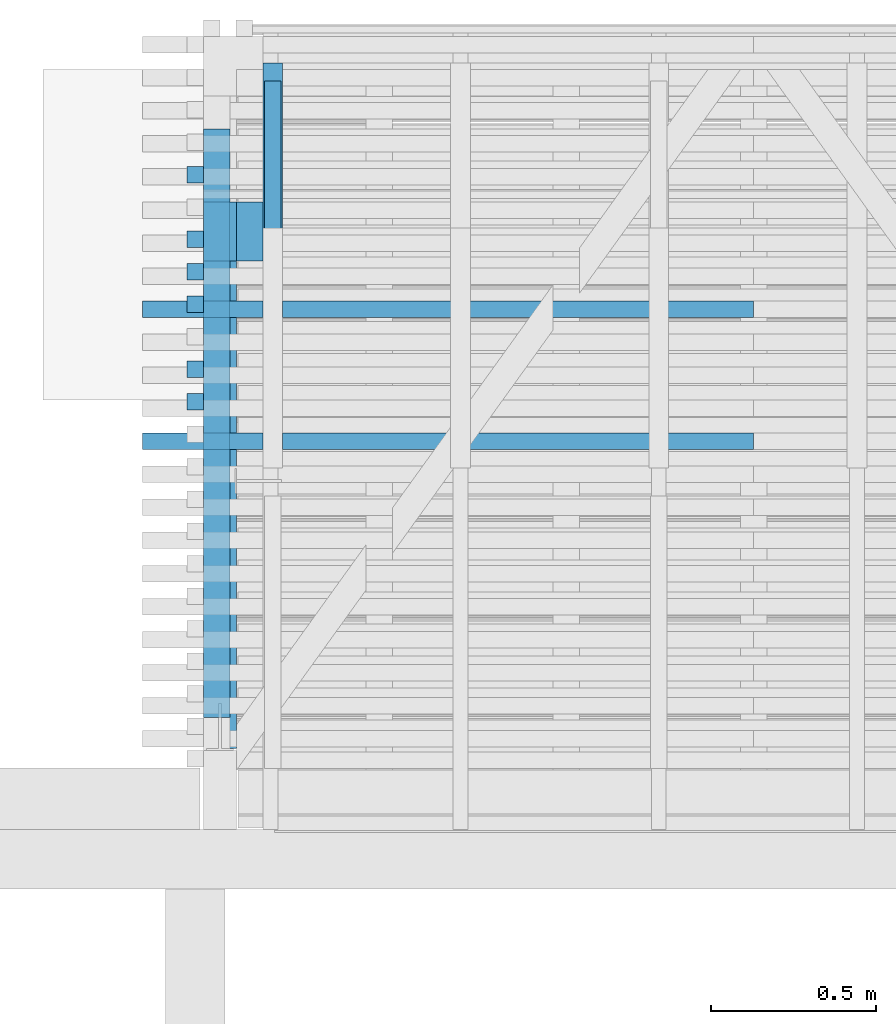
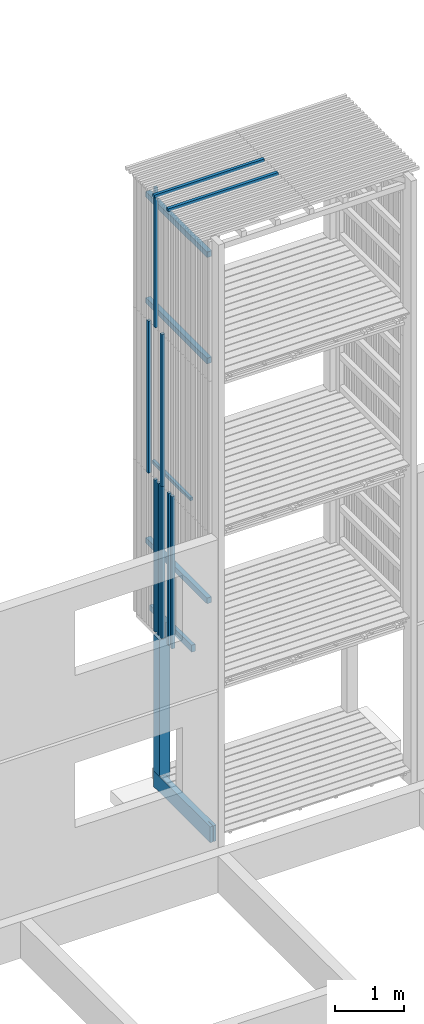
# One storey, part 41 of 182: 17 beams.
"""IFC2X3 building model written with IfcOpenShell, lengths in metres."""

from ifc_helpers import new_model, si_unit, frame, origin, place, context, project, spatial, faceted_brep, element, save


model = new_model("IFC2X3")

# Units and contexts
model_context = context("Model", 3, precision=1e-06, world=origin())
ifc_project = project(units=[si_unit("LENGTHUNIT", "METRE"), si_unit("PLANEANGLEUNIT", "RADIAN")], contexts=[model_context])

# Site, building, storey
site = spatial("IfcSite", under=ifc_project, CompositionType="ELEMENT")
building = spatial("IfcBuilding", under=site, CompositionType="ELEMENT")
storey = spatial("IfcBuildingStorey", under=building, Name="vs", CompositionType="ELEMENT", Elevation=-0.85)

# Beams
placement = place(None, origin())
beam_1_placement = place(placement, frame((13.299197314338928, 11.863259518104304, 2.575000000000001), z_axis=(1.0, 0.0, 0.0), x_axis=(0.0, 0.0, 1.0)))
element("IfcBeam", 1, at=beam_1_placement, inside=storey, Name="Bardage", context=model_context, shape_type="Brep", body=[
    faceted_brep([(2.699961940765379, -0.024999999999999, 0.025000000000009), (2.699961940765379, -0.024999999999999, -0.025000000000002), (2.699961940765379, 0.024999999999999, -0.025000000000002), (2.699961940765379, 0.024999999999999, 0.025000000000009), (0.0, -0.024999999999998, 0.025000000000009), (2.699961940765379, -0.024999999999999, 0.025000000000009), (2.699961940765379, 0.024999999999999, 0.025000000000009), (0.0, 0.025000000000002, 0.025000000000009), (0.0, -0.024999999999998, 0.025000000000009), (0.0, 0.025000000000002, 0.025000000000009), (0.0, 0.025000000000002, -0.025000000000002), (0.0, -0.024999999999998, -0.025000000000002), (0.0, -0.024999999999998, 0.025000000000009), (0.0, -0.024999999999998, -0.025000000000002), (2.699961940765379, -0.024999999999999, -0.025000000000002), (2.699961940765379, -0.024999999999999, 0.025000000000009), (0.0, -0.024999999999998, -0.025000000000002), (0.0, 0.025000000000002, -0.025000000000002), (2.699961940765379, 0.024999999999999, -0.025000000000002), (2.699961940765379, -0.024999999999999, -0.025000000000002), (0.0, 0.025000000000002, -0.025000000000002), (0.0, 0.025000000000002, 0.025000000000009), (2.699961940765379, 0.024999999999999, 0.025000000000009), (2.699961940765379, 0.024999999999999, -0.025000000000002)], [[[0, 1, 2, 3]], [[4, 5, 6, 7]], [[8, 9, 10, 11]], [[12, 13, 14, 15]], [[16, 17, 18, 19]], [[20, 21, 22, 23]]]),
])
beam_2_placement = place(placement, frame((13.299197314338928, 12.452350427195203, 5.274999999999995), z_axis=(1.0, 0.0, 0.0), x_axis=(0.0, 0.0, 1.0)))
element("IfcBeam", 2, at=beam_2_placement, inside=storey, Name="Bardage", context=model_context, shape_type="Brep", body=[
    faceted_brep([(2.699999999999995, 0.024999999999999, 0.025000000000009), (2.699999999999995, -0.024999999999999, 0.025000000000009), (2.699999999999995, -0.024999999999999, -0.025000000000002), (2.699999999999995, 0.024999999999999, -0.025000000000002), (1e-15, 0.024999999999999, 0.025000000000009), (2.699999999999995, 0.024999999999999, 0.025000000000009), (2.699999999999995, 0.024999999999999, -0.025000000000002), (1e-15, 0.024999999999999, -0.025000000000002), (1e-15, -0.024999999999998, 0.025000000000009), (1e-15, 0.024999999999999, 0.025000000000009), (1e-15, 0.024999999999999, -0.025000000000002), (1e-15, -0.024999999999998, -0.025000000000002), (1e-15, 0.024999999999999, 0.025000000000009), (1e-15, -0.024999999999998, 0.025000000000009), (2.699999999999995, -0.024999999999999, 0.025000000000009), (2.699999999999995, 0.024999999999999, 0.025000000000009), (1e-15, -0.024999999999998, 0.025000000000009), (1e-15, -0.024999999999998, -0.025000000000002), (2.699999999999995, -0.024999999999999, -0.025000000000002), (2.699999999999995, -0.024999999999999, 0.025000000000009), (1e-15, -0.024999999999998, -0.025000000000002), (1e-15, 0.024999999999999, -0.025000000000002), (2.699999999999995, 0.024999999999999, -0.025000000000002), (2.699999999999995, -0.024999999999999, -0.025000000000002)], [[[0, 1, 2, 3]], [[4, 5, 6, 7]], [[8, 9, 10, 11]], [[12, 13, 14, 15]], [[16, 17, 18, 19]], [[20, 21, 22, 23]]]),
])
beam_3_placement = place(placement, frame((13.374197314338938, 10.715077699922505, -0.119999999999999), z_axis=(0.0, 0.0, 1.0), x_axis=(0.0, 1.0, 0.0)))
element("IfcBeam", 3, at=beam_3_placement, inside=storey, Name="Sommier", context=model_context, shape_type="Brep", body=[
    faceted_brep([(0.771999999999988, -0.045000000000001, 0.051399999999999), (0.847999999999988, -0.045000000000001, 0.051399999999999), (0.847999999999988, -0.049999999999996, 0.051399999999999), (0.771999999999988, -0.049999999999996, 0.051399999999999), (0.847999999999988, -0.045000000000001, -0.123600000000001), (0.847999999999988, -0.049999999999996, -0.123600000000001), (0.847999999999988, -0.049999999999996, 0.051399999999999), (0.847999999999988, -0.045000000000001, 0.051399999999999), (0.771999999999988, -0.049999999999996, -0.123600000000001), (0.771999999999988, -0.045000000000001, -0.123600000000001), (0.771999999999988, -0.045000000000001, 0.051399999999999), (0.771999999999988, -0.049999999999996, 0.051399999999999), (0.847999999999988, -0.049999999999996, -0.123600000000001), (0.847999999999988, -0.045000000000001, -0.123600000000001), (0.771999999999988, -0.045000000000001, -0.123600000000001), (0.771999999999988, -0.049999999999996, -0.123600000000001), (1.654999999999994, 0.049999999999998, 0.14), (1.654999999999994, -0.049999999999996, 0.14), (1.654999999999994, -0.049999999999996, -0.14), (1.654999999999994, 0.049999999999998, -0.14), (0.137, -0.00399999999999, 0.14), (0.0, -0.00399999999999, 0.14), (0.0, -0.049999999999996, 0.14), (1.654999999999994, -0.049999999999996, 0.14), (1.654999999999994, 0.049999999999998, 0.14), (0.0, 0.049999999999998, 0.14), (0.0, 0.004000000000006, 0.14), (0.137, 0.004000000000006, 0.14), (0.0, -0.049999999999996, -0.14), (1.654999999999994, -0.049999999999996, -0.14), (1.654999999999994, -0.049999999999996, 0.14), (0.0, -0.049999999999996, 0.14), (0.771999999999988, -0.049999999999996, 0.051399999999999), (0.847999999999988, -0.049999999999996, 0.051399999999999), (0.847999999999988, -0.049999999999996, -0.123600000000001), (0.771999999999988, -0.049999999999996, -0.123600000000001), (0.771999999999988, -0.045000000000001, 0.051399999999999), (0.771999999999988, -0.045000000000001, -0.123600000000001), (0.847999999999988, -0.045000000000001, -0.123600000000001), (0.847999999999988, -0.045000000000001, 0.051399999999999), (0.0, 0.049999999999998, 0.14), (1.654999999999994, 0.049999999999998, 0.14), (1.654999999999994, 0.049999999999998, -0.14), (0.0, 0.049999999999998, -0.14), (0.0, 0.004000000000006, -0.14), (0.0, 0.004000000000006, 0.14), (0.0, 0.049999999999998, 0.14), (0.0, 0.049999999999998, -0.14), (0.0, -0.049999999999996, 0.14), (0.0, -0.00399999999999, 0.14), (0.0, -0.00399999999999, -0.14), (0.0, -0.049999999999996, -0.14), (0.0, 0.004000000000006, -0.14), (0.0, 0.049999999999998, -0.14), (1.654999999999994, 0.049999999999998, -0.14), (1.654999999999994, -0.049999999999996, -0.14), (0.0, -0.049999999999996, -0.14), (0.0, -0.00399999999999, -0.14), (0.137, -0.00399999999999, -0.14), (0.137, 0.004000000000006, -0.14), (0.137, 0.004000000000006, -0.14), (0.137, -0.00399999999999, -0.14), (0.137, -0.00399999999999, 0.14), (0.137, 0.004000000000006, 0.14), (0.0, -0.00399999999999, 0.14), (0.137, -0.00399999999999, 0.14), (0.137, -0.00399999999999, -0.14), (0.0, -0.00399999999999, -0.14), (0.137, 0.004000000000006, 0.14), (0.0, 0.004000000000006, 0.14), (0.0, 0.004000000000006, -0.14), (0.137, 0.004000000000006, -0.14)], [[[0, 1, 2, 3]], [[4, 5, 6, 7]], [[8, 9, 10, 11]], [[12, 13, 14, 15]], [[16, 17, 18, 19]], [[20, 21, 22, 23, 24, 25, 26, 27]], [[28, 29, 30, 31], [32, 33, 34, 35]], [[36, 37, 38, 39]], [[40, 41, 42, 43]], [[44, 45, 46, 47]], [[48, 49, 50, 51]], [[52, 53, 54, 55, 56, 57, 58, 59]], [[60, 61, 62, 63]], [[64, 65, 66, 67]], [[68, 69, 70, 71]]]),
])
beam_4_placement = place(placement, frame((13.364197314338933, 10.810077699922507, 8.229999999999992), z_axis=(0.0, 0.0, 1.0), x_axis=(0.0, 1.0, 0.0)))
element("IfcBeam", 4, at=beam_4_placement, inside=storey, Name="Support bardage", context=model_context, shape_type="Brep", body=[
    faceted_brep([(1.779999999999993, 0.039999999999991, -0.05), (1.779999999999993, 0.039999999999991, 0.050000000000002), (1.779999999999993, -0.040000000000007, 0.050000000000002), (1.779999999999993, -0.040000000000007, -0.05), (1.779999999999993, -0.040000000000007, 0.050000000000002), (1.779999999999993, 0.039999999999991, 0.050000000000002), (-4e-15, 0.039999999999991, 0.050000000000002), (-4e-15, -0.040000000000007, 0.050000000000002), (-4e-15, 0.039999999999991, 0.050000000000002), (1.779999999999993, 0.039999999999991, 0.050000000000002), (1.779999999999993, 0.039999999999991, -0.05), (-4e-15, 0.039999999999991, -0.05), (1.779999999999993, -0.040000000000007, -0.05), (1.779999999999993, -0.040000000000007, 0.050000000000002), (-4e-15, -0.040000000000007, 0.050000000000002), (-4e-15, -0.040000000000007, -0.05), (-4e-15, 0.039999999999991, -0.05), (1.779999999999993, 0.039999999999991, -0.05), (1.779999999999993, -0.040000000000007, -0.05), (-4e-15, -0.040000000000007, -0.05), (-4e-15, 0.039999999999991, 0.050000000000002), (-4e-15, 0.039999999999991, -0.05), (-4e-15, -0.040000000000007, -0.05), (-4e-15, -0.040000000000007, 0.050000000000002)], [[[0, 1, 2, 3]], [[4, 5, 6, 7]], [[8, 9, 10, 11]], [[12, 13, 14, 15]], [[16, 17, 18, 19]], [[20, 21, 22, 23]]]),
])
beam_5_placement = place(placement, frame((13.364197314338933, 10.810077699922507, 10.114999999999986), z_axis=(0.0, 0.0, 1.0), x_axis=(0.0, 1.0, 0.0)))
element("IfcBeam", 5, at=beam_5_placement, inside=storey, Name="Support bardage", context=model_context, shape_type="Brep", body=[
    faceted_brep([(1.779999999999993, 0.039999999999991, -0.050000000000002), (1.779999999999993, 0.039999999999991, 0.050000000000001), (1.779999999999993, -0.040000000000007, 0.050000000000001), (1.779999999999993, -0.040000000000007, -0.050000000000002), (1.779999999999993, -0.040000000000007, 0.050000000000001), (1.779999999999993, 0.039999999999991, 0.050000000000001), (-4e-15, 0.039999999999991, 0.050000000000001), (-4e-15, -0.040000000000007, 0.050000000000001), (-4e-15, 0.039999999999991, 0.050000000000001), (1.779999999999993, 0.039999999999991, 0.050000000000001), (1.779999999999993, 0.039999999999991, -0.050000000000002), (-4e-15, 0.039999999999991, -0.050000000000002), (1.779999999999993, -0.040000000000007, -0.050000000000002), (1.779999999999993, -0.040000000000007, 0.050000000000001), (-4e-15, -0.040000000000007, 0.050000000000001), (-4e-15, -0.040000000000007, -0.050000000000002), (-4e-15, 0.039999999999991, -0.050000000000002), (1.779999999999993, 0.039999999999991, -0.050000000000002), (1.779999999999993, -0.040000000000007, -0.050000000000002), (-4e-15, -0.040000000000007, -0.050000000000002), (-4e-15, 0.039999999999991, 0.050000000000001), (-4e-15, 0.039999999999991, -0.050000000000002), (-4e-15, -0.040000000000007, -0.050000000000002), (-4e-15, -0.040000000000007, 0.050000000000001)], [[[0, 1, 2, 3]], [[4, 5, 6, 7]], [[8, 9, 10, 11]], [[12, 13, 14, 15]], [[16, 17, 18, 19]], [[20, 21, 22, 23]]]),
])
beam_6_placement = place(placement, frame((13.299197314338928, 12.059623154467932, 2.575000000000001), z_axis=(1.0, 0.0, 0.0), x_axis=(0.0, 0.0, 1.0)))
element("IfcBeam", 6, at=beam_6_placement, inside=storey, Name="Bardage", context=model_context, shape_type="Brep", body=[
    faceted_brep([(2.699961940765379, -0.025000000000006, 0.025000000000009), (2.699961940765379, -0.025000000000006, -0.025000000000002), (2.699961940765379, 0.024999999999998, -0.025000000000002), (2.699961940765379, 0.024999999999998, 0.025000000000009), (0.0, -0.025000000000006, 0.025000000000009), (2.699961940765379, -0.025000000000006, 0.025000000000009), (2.699961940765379, 0.024999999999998, 0.025000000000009), (0.0, 0.024999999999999, 0.025000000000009), (0.0, -0.025000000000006, 0.025000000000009), (0.0, 0.024999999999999, 0.025000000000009), (0.0, 0.024999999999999, -0.025000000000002), (0.0, -0.025000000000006, -0.025000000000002), (0.0, -0.025000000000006, 0.025000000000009), (0.0, -0.025000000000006, -0.025000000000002), (2.699961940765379, -0.025000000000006, -0.025000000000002), (2.699961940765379, -0.025000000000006, 0.025000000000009), (0.0, -0.025000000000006, -0.025000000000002), (0.0, 0.024999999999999, -0.025000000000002), (2.699961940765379, 0.024999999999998, -0.025000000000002), (2.699961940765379, -0.025000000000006, -0.025000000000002), (0.0, 0.024999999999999, -0.025000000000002), (0.0, 0.024999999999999, 0.025000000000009), (2.699961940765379, 0.024999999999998, 0.025000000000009), (2.699961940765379, 0.024999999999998, -0.025000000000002)], [[[0, 1, 2, 3]], [[4, 5, 6, 7]], [[8, 9, 10, 11]], [[12, 13, 14, 15]], [[16, 17, 18, 19]], [[20, 21, 22, 23]]]),
])
beam_7_placement = place(placement, frame((13.299197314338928, 12.25598679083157, 7.974999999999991), z_axis=(1.0, 0.0, 0.0), x_axis=(0.0, 0.0, 1.0)))
element("IfcBeam", 7, at=beam_7_placement, inside=storey, Name="Bardage", context=model_context, shape_type="Brep", body=[
    faceted_brep([(0.0, -0.025000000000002, 0.025000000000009), (0.0, 0.024999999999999, 0.025000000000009), (0.0, 0.024999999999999, -0.025000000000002), (0.0, -0.025000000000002, -0.025000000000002), (2.479999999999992, 0.024999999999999, -0.025000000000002), (2.479999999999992, 0.024999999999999, 0.025000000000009), (2.479999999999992, -0.025000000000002, 0.025000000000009), (2.479999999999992, -0.025000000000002, -0.025000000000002), (0.0, 0.024999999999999, 0.025000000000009), (0.0, -0.025000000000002, 0.025000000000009), (2.479999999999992, -0.025000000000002, 0.025000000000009), (2.479999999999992, 0.024999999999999, 0.025000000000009), (0.0, 0.024999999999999, -0.025000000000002), (0.0, 0.024999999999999, 0.025000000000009), (2.479999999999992, 0.024999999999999, 0.025000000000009), (2.479999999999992, 0.024999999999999, -0.025000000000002), (0.0, -0.025000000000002, -0.025000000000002), (0.0, 0.024999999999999, -0.025000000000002), (2.479999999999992, 0.024999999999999, -0.025000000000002), (2.479999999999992, -0.025000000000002, -0.025000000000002), (2.479999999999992, -0.025000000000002, 0.025000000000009), (0.0, -0.025000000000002, 0.025000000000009), (0.0, -0.025000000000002, -0.025000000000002), (2.479999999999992, -0.025000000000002, -0.025000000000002)], [[[0, 1, 2, 3]], [[4, 5, 6, 7]], [[8, 9, 10, 11]], [[12, 13, 14, 15]], [[16, 17, 18, 19]], [[20, 21, 22, 23]]]),
])
beam_8_placement = place(placement, frame((13.299197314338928, 11.765077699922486, 2.575000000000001), z_axis=(1.0, 0.0, 0.0), x_axis=(0.0, 0.0, 1.0)))
element("IfcBeam", 8, at=beam_8_placement, inside=storey, Name="Bardage", context=model_context, shape_type="Brep", body=[
    faceted_brep([(2.699961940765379, -0.025000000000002, 0.025000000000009), (2.699961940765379, -0.025000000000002, -0.025000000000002), (2.699961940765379, 0.025000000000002, -0.025000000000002), (2.699961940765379, 0.025000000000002, 0.025000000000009), (0.0, -0.025000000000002, 0.025000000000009), (2.699961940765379, -0.025000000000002, 0.025000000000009), (2.699961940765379, 0.025000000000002, 0.025000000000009), (0.0, 0.025000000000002, 0.025000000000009), (0.0, -0.025000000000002, 0.025000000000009), (0.0, 0.025000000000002, 0.025000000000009), (0.0, 0.025000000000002, -0.025000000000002), (0.0, -0.025000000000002, -0.025000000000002), (0.0, -0.025000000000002, 0.025000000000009), (0.0, -0.025000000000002, -0.025000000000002), (2.699961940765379, -0.025000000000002, -0.025000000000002), (2.699961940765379, -0.025000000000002, 0.025000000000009), (0.0, -0.025000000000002, -0.025000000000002), (0.0, 0.025000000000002, -0.025000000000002), (2.699961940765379, 0.025000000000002, -0.025000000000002), (2.699961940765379, -0.025000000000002, -0.025000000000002), (0.0, 0.025000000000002, -0.025000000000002), (0.0, 0.025000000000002, 0.025000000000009), (2.699961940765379, 0.025000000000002, 0.025000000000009), (2.699961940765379, 0.025000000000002, -0.025000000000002)], [[[0, 1, 2, 3]], [[4, 5, 6, 7]], [[8, 9, 10, 11]], [[12, 13, 14, 15]], [[16, 17, 18, 19]], [[20, 21, 22, 23]]]),
])
beam_9_placement = place(placement, frame((14.989197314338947, 12.045077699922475, 10.47999999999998), z_axis=(0.0, 0.0, 1.0), x_axis=(-1.0, -2e-15, 0.0)))
element("IfcBeam", 9, at=beam_9_placement, inside=storey, Name="Bardage", context=model_context, shape_type="Brep", body=[
    faceted_brep([(1.850000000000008, -0.025000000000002, -0.024999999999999), (1.850000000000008, -0.025000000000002, 0.025000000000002), (-1e-15, -0.025000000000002, 0.025000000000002), (-1e-15, -0.025000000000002, -0.024999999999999), (1.850000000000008, -0.025000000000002, 0.025000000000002), (1.850000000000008, -0.025000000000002, -0.024999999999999), (1.850000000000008, 0.024999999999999, -0.024999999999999), (1.850000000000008, 0.024999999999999, 0.025000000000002), (1.850000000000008, 0.024999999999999, -0.024999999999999), (1.850000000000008, -0.025000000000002, -0.024999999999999), (-1e-15, -0.025000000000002, -0.024999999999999), (-1e-15, 0.025000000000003, -0.024999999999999), (1.850000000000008, 0.024999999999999, 0.025000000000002), (1.850000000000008, 0.024999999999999, -0.024999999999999), (-1e-15, 0.025000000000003, -0.024999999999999), (-1e-15, 0.025000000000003, 0.025000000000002), (-1e-15, -0.025000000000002, 0.025000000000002), (1.850000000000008, -0.025000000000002, 0.025000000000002), (1.850000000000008, 0.024999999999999, 0.025000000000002), (-1e-15, 0.025000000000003, 0.025000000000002), (-1e-15, -0.025000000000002, -0.024999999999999), (-1e-15, -0.025000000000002, 0.025000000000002), (-1e-15, 0.025000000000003, 0.025000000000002), (-1e-15, 0.025000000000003, -0.024999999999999)], [[[0, 1, 2, 3]], [[4, 5, 6, 7]], [[8, 9, 10, 11]], [[12, 13, 14, 15]], [[16, 17, 18, 19]], [[20, 21, 22, 23]]]),
])
beam_10_placement = place(placement, frame((14.989197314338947, 11.645077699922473, 10.47999999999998), z_axis=(0.0, 0.0, 1.0), x_axis=(-1.0, 0.0, 0.0)))
element("IfcBeam", 10, at=beam_10_placement, inside=storey, Name="Bardage", context=model_context, shape_type="Brep", body=[
    faceted_brep([(1.850000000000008, -0.024999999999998, -0.024999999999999), (1.850000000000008, -0.024999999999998, 0.025000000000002), (-1e-15, -0.025000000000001, 0.025000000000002), (-1e-15, -0.025000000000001, -0.024999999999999), (1.850000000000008, -0.024999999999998, 0.025000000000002), (1.850000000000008, -0.024999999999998, -0.024999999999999), (1.850000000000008, 0.024999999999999, -0.024999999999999), (1.850000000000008, 0.024999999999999, 0.025000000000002), (1.850000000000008, 0.024999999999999, -0.024999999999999), (1.850000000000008, -0.024999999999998, -0.024999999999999), (-1e-15, -0.025000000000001, -0.024999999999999), (-1e-15, 0.024999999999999, -0.024999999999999), (1.850000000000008, 0.024999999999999, 0.025000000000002), (1.850000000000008, 0.024999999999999, -0.024999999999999), (-1e-15, 0.024999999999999, -0.024999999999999), (-1e-15, 0.024999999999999, 0.025000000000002), (-1e-15, -0.025000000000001, 0.025000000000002), (1.850000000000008, -0.024999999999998, 0.025000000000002), (1.850000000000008, 0.024999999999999, 0.025000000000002), (-1e-15, 0.024999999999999, 0.025000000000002), (-1e-15, -0.025000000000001, -0.024999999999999), (-1e-15, -0.025000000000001, 0.025000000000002), (-1e-15, 0.024999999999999, 0.025000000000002), (-1e-15, 0.024999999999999, -0.024999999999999)], [[[0, 1, 2, 3]], [[4, 5, 6, 7]], [[8, 9, 10, 11]], [[12, 13, 14, 15]], [[16, 17, 18, 19]], [[20, 21, 22, 23]]]),
])
beam_11_placement = place(placement, frame((13.299197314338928, 12.059623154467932, 5.274999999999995), z_axis=(1.0, 0.0, 0.0), x_axis=(0.0, 0.0, 1.0)))
element("IfcBeam", 11, at=beam_11_placement, inside=storey, Name="Bardage", context=model_context, shape_type="Brep", body=[
    faceted_brep([(2.699999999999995, 0.024999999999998, 0.025000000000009), (2.699999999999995, -0.025000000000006, 0.025000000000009), (2.699999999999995, -0.025000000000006, -0.025000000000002), (2.699999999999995, 0.024999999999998, -0.025000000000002), (1e-15, 0.024999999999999, 0.025000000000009), (2.699999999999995, 0.024999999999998, 0.025000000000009), (2.699999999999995, 0.024999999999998, -0.025000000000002), (1e-15, 0.024999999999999, -0.025000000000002), (1e-15, -0.025000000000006, 0.025000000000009), (1e-15, 0.024999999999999, 0.025000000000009), (1e-15, 0.024999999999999, -0.025000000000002), (1e-15, -0.025000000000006, -0.025000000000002), (1e-15, 0.024999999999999, 0.025000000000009), (1e-15, -0.025000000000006, 0.025000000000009), (2.699999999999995, -0.025000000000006, 0.025000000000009), (2.699999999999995, 0.024999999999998, 0.025000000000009), (1e-15, -0.025000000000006, 0.025000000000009), (1e-15, -0.025000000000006, -0.025000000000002), (2.699999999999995, -0.025000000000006, -0.025000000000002), (2.699999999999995, -0.025000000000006, 0.025000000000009), (1e-15, -0.025000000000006, -0.025000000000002), (1e-15, 0.024999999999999, -0.025000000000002), (2.699999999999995, 0.024999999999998, -0.025000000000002), (2.699999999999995, -0.025000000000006, -0.025000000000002)], [[[0, 1, 2, 3]], [[4, 5, 6, 7]], [[8, 9, 10, 11]], [[12, 13, 14, 15]], [[16, 17, 18, 19]], [[20, 21, 22, 23]]]),
])
beam_12_placement = place(placement, frame((13.299197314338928, 12.157804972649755, 2.575000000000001), z_axis=(1.0, 0.0, 0.0), x_axis=(0.0, 0.0, 1.0)))
element("IfcBeam", 12, at=beam_12_placement, inside=storey, Name="Bardage", context=model_context, shape_type="Brep", body=[
    faceted_brep([(2.699961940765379, -0.024999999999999, 0.025000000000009), (2.699961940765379, -0.024999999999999, -0.025000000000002), (2.699961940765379, 0.024999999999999, -0.025000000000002), (2.699961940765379, 0.024999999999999, 0.025000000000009), (0.0, -0.024999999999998, 0.025000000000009), (2.699961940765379, -0.024999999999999, 0.025000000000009), (2.699961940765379, 0.024999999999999, 0.025000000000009), (0.0, 0.024999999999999, 0.025000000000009), (0.0, -0.024999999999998, 0.025000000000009), (0.0, 0.024999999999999, 0.025000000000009), (0.0, 0.024999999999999, -0.025000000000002), (0.0, -0.024999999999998, -0.025000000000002), (0.0, -0.024999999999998, 0.025000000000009), (0.0, -0.024999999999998, -0.025000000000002), (2.699961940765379, -0.024999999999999, -0.025000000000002), (2.699961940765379, -0.024999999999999, 0.025000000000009), (0.0, -0.024999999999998, -0.025000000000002), (0.0, 0.024999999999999, -0.025000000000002), (2.699961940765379, 0.024999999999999, -0.025000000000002), (2.699961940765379, -0.024999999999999, -0.025000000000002), (0.0, 0.024999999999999, -0.025000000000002), (0.0, 0.024999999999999, 0.025000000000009), (2.699961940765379, 0.024999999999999, 0.025000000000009), (2.699961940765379, 0.024999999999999, -0.025000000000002)], [[[0, 1, 2, 3]], [[4, 5, 6, 7]], [[8, 9, 10, 11]], [[12, 13, 14, 15]], [[16, 17, 18, 19]], [[20, 21, 22, 23]]]),
])
beam_13_placement = place(placement, frame((13.299197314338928, 12.25598679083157, 2.575000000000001), z_axis=(1.0, 0.0, 0.0), x_axis=(0.0, 0.0, 1.0)))
element("IfcBeam", 13, at=beam_13_placement, inside=storey, Name="Bardage", context=model_context, shape_type="Brep", body=[
    faceted_brep([(2.699961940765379, -0.025000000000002, 0.025000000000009), (2.699961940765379, -0.025000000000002, -0.025000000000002), (2.699961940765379, 0.024999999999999, -0.025000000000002), (2.699961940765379, 0.024999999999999, 0.025000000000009), (0.0, -0.025000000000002, 0.025000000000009), (2.699961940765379, -0.025000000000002, 0.025000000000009), (2.699961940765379, 0.024999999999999, 0.025000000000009), (0.0, 0.024999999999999, 0.025000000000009), (0.0, -0.025000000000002, 0.025000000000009), (0.0, 0.024999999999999, 0.025000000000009), (0.0, 0.024999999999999, -0.025000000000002), (0.0, -0.025000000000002, -0.025000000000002), (0.0, -0.025000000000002, 0.025000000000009), (0.0, -0.025000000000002, -0.025000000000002), (2.699961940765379, -0.025000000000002, -0.025000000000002), (2.699961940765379, -0.025000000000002, 0.025000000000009), (0.0, -0.025000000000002, -0.025000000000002), (0.0, 0.024999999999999, -0.025000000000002), (2.699961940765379, 0.024999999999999, -0.025000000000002), (2.699961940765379, -0.025000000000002, -0.025000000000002), (0.0, 0.024999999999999, -0.025000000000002), (0.0, 0.024999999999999, 0.025000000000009), (2.699961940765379, 0.024999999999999, 0.025000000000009), (2.699961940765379, 0.024999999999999, -0.025000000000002)], [[[0, 1, 2, 3]], [[4, 5, 6, 7]], [[8, 9, 10, 11]], [[12, 13, 14, 15]], [[16, 17, 18, 19]], [[20, 21, 22, 23]]]),
])
beam_14_placement = place(placement, frame((13.534197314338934, 11.565077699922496, 2.604249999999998), z_axis=(0.0, 0.0, 1.0), x_axis=(0.0, 1.0, 0.0)))
element("IfcBeam", 14, at=beam_14_placement, inside=storey, Name="Solive", context=model_context, shape_type="Brep", body=[
    faceted_brep([(0.0, -0.030000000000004, -0.06185), (1.225000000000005, -0.030000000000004, -0.06185), (1.225000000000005, -0.030000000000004, 0.037349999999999), (0.0, -0.030000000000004, 0.06185), (0.0, 0.029999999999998, -0.06185), (1.225000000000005, 0.029999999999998, -0.06185), (1.225000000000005, -0.030000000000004, -0.06185), (0.0, -0.030000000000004, -0.06185), (0.0, 0.029999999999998, 0.06185), (0.0, 0.029999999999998, -0.06185), (0.0, -0.030000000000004, -0.06185), (0.0, -0.030000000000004, 0.06185), (1.225000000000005, 0.029999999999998, -0.06185), (0.0, 0.029999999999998, -0.06185), (0.0, 0.029999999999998, 0.06185), (1.225000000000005, 0.029999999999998, 0.037349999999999), (1.225000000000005, -0.030000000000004, 0.037349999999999), (1.225000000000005, -0.030000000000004, -0.06185), (1.225000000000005, 0.029999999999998, -0.06185), (1.225000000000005, 0.029999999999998, 0.037349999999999), (0.0, -0.030000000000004, 0.06185), (1.225000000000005, -0.030000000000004, 0.037349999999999), (1.225000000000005, 0.029999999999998, 0.037349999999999), (0.0, 0.029999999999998, 0.06185)], [[[0, 1, 2, 3]], [[4, 5, 6, 7]], [[8, 9, 10, 11]], [[12, 13, 14, 15]], [[16, 17, 18, 19]], [[20, 21, 22, 23]]]),
])
beam_15_placement = place(placement, frame((13.534197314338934, 12.735077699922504, 5.217399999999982), z_axis=(0.0, 0.0, 1.0), x_axis=(0.0, -1.0, 0.0)))
element("IfcBeam", 15, at=beam_15_placement, inside=storey, Name="Calage", context=model_context, shape_type="Brep", body=[
    faceted_brep([(0.0, 0.025000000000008, -0.024999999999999), (0.0, -0.024999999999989, -0.024999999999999), (0.0, -0.024999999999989, 0.024999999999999), (0.0, 0.025000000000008, 0.024999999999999), (1.115000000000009, -0.024999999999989, 0.024999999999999), (1.115000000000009, -0.024999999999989, -0.024999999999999), (1.115000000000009, 0.025000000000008, -0.024999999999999), (1.115000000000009, 0.025000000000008, 0.024999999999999), (0.0, -0.024999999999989, 0.024999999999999), (0.0, -0.024999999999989, -0.024999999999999), (1.115000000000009, -0.024999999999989, -0.024999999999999), (1.115000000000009, -0.024999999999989, 0.024999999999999), (1.115000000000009, -0.024999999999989, -0.024999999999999), (0.0, -0.024999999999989, -0.024999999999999), (0.0, 0.025000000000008, -0.024999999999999), (1.115000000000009, 0.025000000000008, -0.024999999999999), (1.115000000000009, 0.025000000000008, -0.024999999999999), (0.0, 0.025000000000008, -0.024999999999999), (0.0, 0.025000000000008, 0.024999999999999), (1.115000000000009, 0.025000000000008, 0.024999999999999), (1.115000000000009, 0.025000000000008, 0.024999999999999), (0.0, 0.025000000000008, 0.024999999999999), (0.0, -0.024999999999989, 0.024999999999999), (1.115000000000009, -0.024999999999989, 0.024999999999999)], [[[0, 1, 2, 3]], [[4, 5, 6, 7]], [[8, 9, 10, 11]], [[12, 13, 14, 15]], [[16, 17, 18, 19]], [[20, 21, 22, 23]]]),
])
beam_16_placement = place(placement, frame((13.364197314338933, 10.810077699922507, 3.972499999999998), z_axis=(0.0, 0.0, 1.0), x_axis=(0.0, 1.0, 0.0)))
element("IfcBeam", 16, at=beam_16_placement, inside=storey, Name="Support bardage", context=model_context, shape_type="Brep", body=[
    faceted_brep([(1.779999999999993, 0.039999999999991, -0.050000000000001), (1.779999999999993, 0.039999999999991, 0.050000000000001), (1.779999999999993, -0.040000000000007, 0.050000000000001), (1.779999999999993, -0.040000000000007, -0.050000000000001), (1.779999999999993, -0.040000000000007, 0.050000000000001), (1.779999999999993, 0.039999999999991, 0.050000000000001), (-4e-15, 0.039999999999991, 0.050000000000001), (-4e-15, -0.040000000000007, 0.050000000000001), (-4e-15, 0.039999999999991, 0.050000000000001), (1.779999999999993, 0.039999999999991, 0.050000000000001), (1.779999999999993, 0.039999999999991, -0.050000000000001), (-4e-15, 0.039999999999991, -0.050000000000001), (1.779999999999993, -0.040000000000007, -0.050000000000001), (1.779999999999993, -0.040000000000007, 0.050000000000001), (-4e-15, -0.040000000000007, 0.050000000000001), (-4e-15, -0.040000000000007, -0.050000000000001), (-4e-15, 0.039999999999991, -0.050000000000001), (1.779999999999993, 0.039999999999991, -0.050000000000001), (1.779999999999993, -0.040000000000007, -0.050000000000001), (-4e-15, -0.040000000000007, -0.050000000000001), (-4e-15, 0.039999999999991, 0.050000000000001), (-4e-15, 0.039999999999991, -0.050000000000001), (-4e-15, -0.040000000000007, -0.050000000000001), (-4e-15, -0.040000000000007, 0.050000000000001)], [[[0, 1, 2, 3]], [[4, 5, 6, 7]], [[8, 9, 10, 11]], [[12, 13, 14, 15]], [[16, 17, 18, 19]], [[20, 21, 22, 23]]]),
])
beam_17_placement = place(placement, frame((13.41419731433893, 12.2800776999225, -0.259999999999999), z_axis=(0.0, -1.0, 0.0), x_axis=(0.0, 0.0, 1.0)))
element("IfcBeam", 17, at=beam_17_placement, inside=storey, Name="Poteau", context=model_context, shape_type="Brep", body=[
    faceted_brep([(0.0, -0.010000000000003, 0.090000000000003), (0.0, -0.010000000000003, -0.009999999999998), (0.0, -0.090000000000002, -0.009999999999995), (0.0, -0.090000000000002, 0.090000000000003), (0.280000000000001, -0.010000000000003, -0.089999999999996), (0.28, -0.010000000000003, 0.090000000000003), (0.28, 0.089999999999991, 0.090000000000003), (0.280000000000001, 0.089999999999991, -0.089999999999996), (0.200000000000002, -0.090000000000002, -0.009999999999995), (0.200000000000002, -0.010000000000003, -0.009999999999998), (0.200000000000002, -0.010000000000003, -0.089999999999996), (0.200000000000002, -0.090000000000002, -0.089999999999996), (0.0, -0.010000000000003, -0.009999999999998), (0.0, -0.010000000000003, 0.090000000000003), (0.28, -0.010000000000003, 0.090000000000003), (0.280000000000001, -0.010000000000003, -0.089999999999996), (0.200000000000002, -0.010000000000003, -0.089999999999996), (0.200000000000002, -0.010000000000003, -0.009999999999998), (0.0, -0.010000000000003, -0.009999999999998), (0.200000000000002, -0.010000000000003, -0.009999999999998), (0.200000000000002, -0.090000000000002, -0.009999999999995), (0.0, -0.090000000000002, -0.009999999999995), (0.280000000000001, 0.089999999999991, -0.089999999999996), (0.28, 0.089999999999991, 0.090000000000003), (2.699999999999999, 0.089999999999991, 0.090000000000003), (2.699999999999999, 0.089999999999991, -0.089999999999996), (2.979999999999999, -0.010000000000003, 0.090000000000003), (2.699999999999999, -0.010000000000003, 0.090000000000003), (2.699999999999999, 0.089999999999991, 0.090000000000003), (0.28, 0.089999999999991, 0.090000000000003), (0.28, -0.010000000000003, 0.090000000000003), (0.0, -0.010000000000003, 0.090000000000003), (0.0, -0.090000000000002, 0.090000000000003), (2.979999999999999, -0.090000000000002, 0.090000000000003), (2.979999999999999, -0.090000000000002, 0.090000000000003), (0.0, -0.090000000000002, 0.090000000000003), (0.0, -0.090000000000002, -0.009999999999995), (0.200000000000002, -0.090000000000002, -0.009999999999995), (0.200000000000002, -0.090000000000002, -0.089999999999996), (2.979999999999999, -0.090000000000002, -0.089999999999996), (2.979999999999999, -0.010000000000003, -0.089999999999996), (2.979999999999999, -0.090000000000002, -0.089999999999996), (0.200000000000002, -0.090000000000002, -0.089999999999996), (0.200000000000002, -0.010000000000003, -0.089999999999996), (0.280000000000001, -0.010000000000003, -0.089999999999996), (0.280000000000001, 0.089999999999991, -0.089999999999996), (2.699999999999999, 0.089999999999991, -0.089999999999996), (2.699999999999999, -0.010000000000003, -0.089999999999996), (2.699999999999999, -0.010000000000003, -0.089999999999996), (2.699999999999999, 0.089999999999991, -0.089999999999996), (2.699999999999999, 0.089999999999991, 0.090000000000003), (2.699999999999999, -0.010000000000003, 0.090000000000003), (2.979999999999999, -0.010000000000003, -0.089999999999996), (2.699999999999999, -0.010000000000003, -0.089999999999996), (2.699999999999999, -0.010000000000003, 0.090000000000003), (2.979999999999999, -0.010000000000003, 0.090000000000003), (2.979999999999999, -0.010000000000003, -0.089999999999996), (2.979999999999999, -0.010000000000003, 0.090000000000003), (2.979999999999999, -0.090000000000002, 0.090000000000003), (2.979999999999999, -0.090000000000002, -0.089999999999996)], [[[0, 1, 2, 3]], [[4, 5, 6, 7]], [[8, 9, 10, 11]], [[12, 13, 14, 15, 16, 17]], [[18, 19, 20, 21]], [[22, 23, 24, 25]], [[26, 27, 28, 29, 30, 31, 32, 33]], [[34, 35, 36, 37, 38, 39]], [[40, 41, 42, 43, 44, 45, 46, 47]], [[48, 49, 50, 51]], [[52, 53, 54, 55]], [[56, 57, 58, 59]]]),
])

save(model, "model.ifc")
